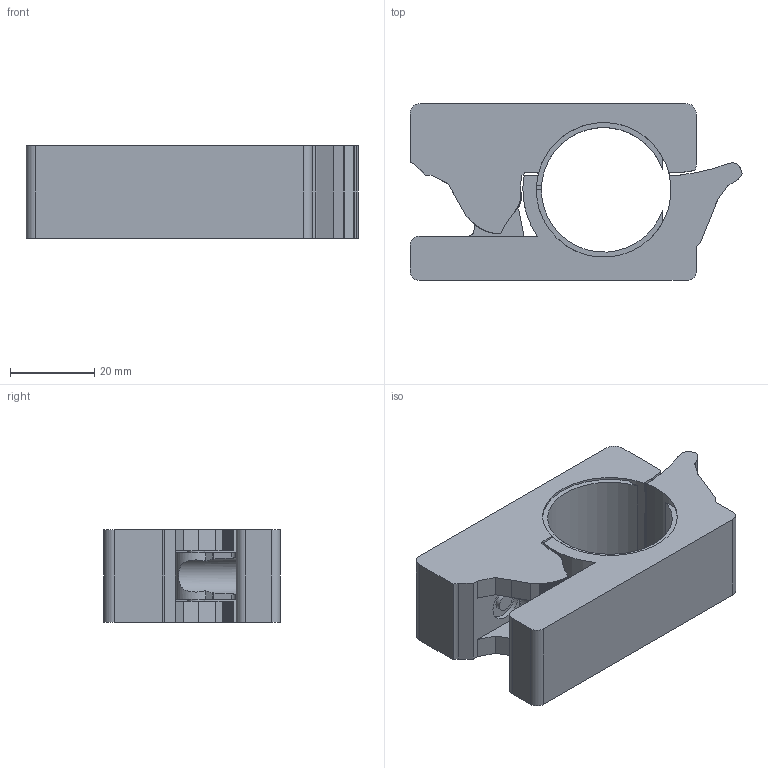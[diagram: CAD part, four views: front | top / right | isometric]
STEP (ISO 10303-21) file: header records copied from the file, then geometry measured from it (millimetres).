
FILE_DESCRIPTION(('Open CASCADE Model'),'2;1');
FILE_NAME('Open CASCADE Shape Model','2026-11-18T22:15:57',('Author'),( 'Open CASCADE'),'Open CASCADE STEP processor 7.8','Open CASCADE 7.8' ,'Unknown');
FILE_SCHEMA(('AUTOMOTIVE_DESIGN { 1 0 10303 214 1 1 1 1 }'));
Length unit declared in the file: millimetre
Products named in the file (5): SuporteCanaMolaV3; corpo_fixo; braco_movel; tpu_superior; tpu_inferior
Assembly tree (4 placements, depth 2):
  SuporteCanaMolaV3
    corpo_fixo
    braco_movel
    tpu_superior
    tpu_inferior
Bounding box: 78.85 x 42 x 22 mm (x, y, z)
Volume: 43164.8 mm3; surface area: 18015.3 mm2
Topology: 4 solids, 4 shells, 623 faces, 1810 edges, 1204 vertices
Faces by surface type: plane 314, cylinder 299, cone 10
Full cylindrical faces by diameter (mm): 4 x2, 4.2 x2, 4.5 x2, 8.6 x2
Entity records: 44796 total; most frequent: CARTESIAN_POINT 11439, DIRECTION 5511, ORIENTED_EDGE 3620, PCURVE 3620, DEFINITIONAL_REPRESENTATION 3620, LINE 2603, VECTOR 2603, EDGE_CURVE 1810
